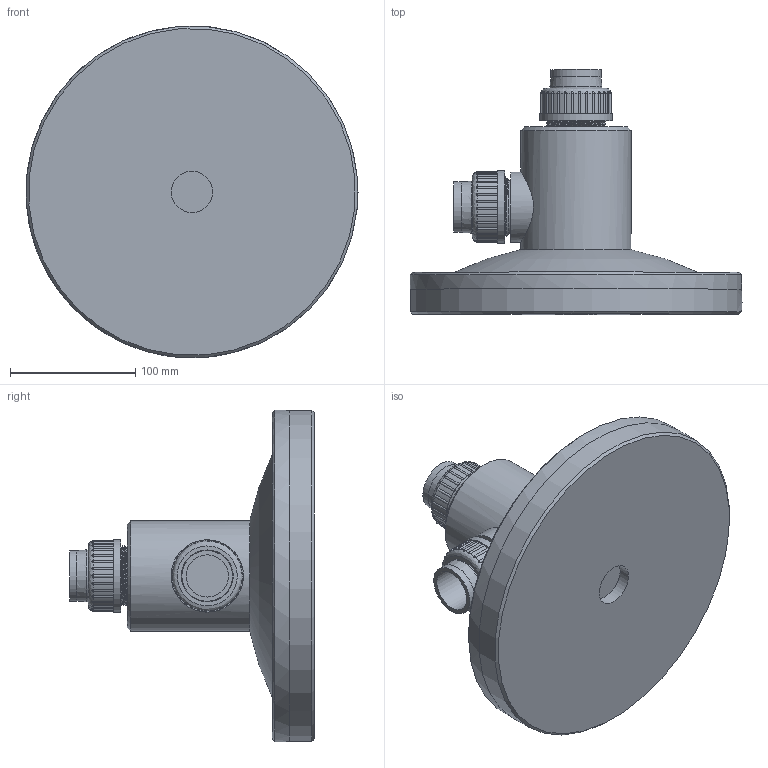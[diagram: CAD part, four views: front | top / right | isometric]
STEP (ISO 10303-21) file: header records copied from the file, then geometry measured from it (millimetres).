
FILE_DESCRIPTION (( 'STEP AP214' ), '1' );
FILE_NAME ('32-2150-0X.STEP', '2021-10-01T10:37:19', ( '' ), ( '' ), 'SwSTEP 2.0', 'SolidWorks 2020', '' );
FILE_SCHEMA (( 'AUTOMOTIVE_DESIGN' ));
Length unit declared in the file: millimetre
Products named in the file (1): 32-2150-0X
Bounding box: 264.97 x 195.3 x 264.86 mm (x, y, z)
Volume: 2918692.8 mm3; surface area: 198117.7 mm2
Topology: 1 solids, 1 shells, 377 faces, 906 edges, 563 vertices
Faces by surface type: cylinder 162, plane 127, bspline 70, cone 16, sphere 1, torus 1
Full cylindrical faces by diameter (mm): 5 x1, 6 x2, 10 x12, 10.5 x12, 33 x1, 33.7 x2, 40.5 x2, 41.5 x2, 56 x1, 57.8 x2, 88 x1, 265 x2
Entity records: 18353 total; most frequent: CARTESIAN_POINT 9292, DIRECTION 1632, ORIENTED_EDGE 1524, EDGE_CURVE 762, AXIS2_PLACEMENT_3D 647, VERTEX_POINT 501, EDGE_LOOP 491, FACE_OUTER_BOUND 422
